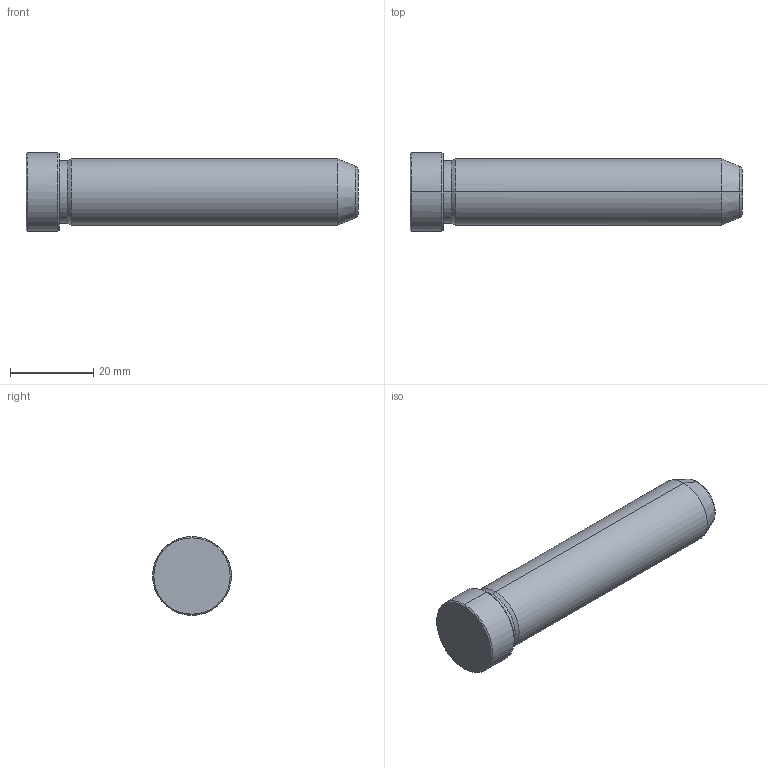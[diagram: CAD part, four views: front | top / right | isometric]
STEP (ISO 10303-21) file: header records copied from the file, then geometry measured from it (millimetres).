
FILE_DESCRIPTION(('CATIA V5 STEP Exchange'),'2;1');
FILE_NAME('C:\Users\Utente\Desktop\IO LAVORO\3D X SITO CF\X SITO\PLASTICA\549\549-16X80.stp','2021-12-11T09:34:53+00:00',('none'),('none'),'CATIA Version 5 Release 20 GA (IN-10)','CATIA V5 STEP AP203','none');
FILE_SCHEMA(('CONFIG_CONTROL_DESIGN'));
Length unit declared in the file: millimetre
Products named in the file (1): 549-16X80
Bounding box: 80 x 19 x 19 mm (x, y, z)
Volume: 16444.5 mm3; surface area: 4556.2 mm2
Topology: 1 solids, 1 shells, 19 faces, 56 edges, 40 vertices
Faces by surface type: cone 8, cylinder 6, plane 3, torus 2
Entity records: 736 total; most frequent: CARTESIAN_POINT 192, ORIENTED_EDGE 112, DIRECTION 86, EDGE_CURVE 56, AXIS2_PLACEMENT_3D 54, VERTEX_POINT 40, CIRCLE 34, EDGE_LOOP 20
